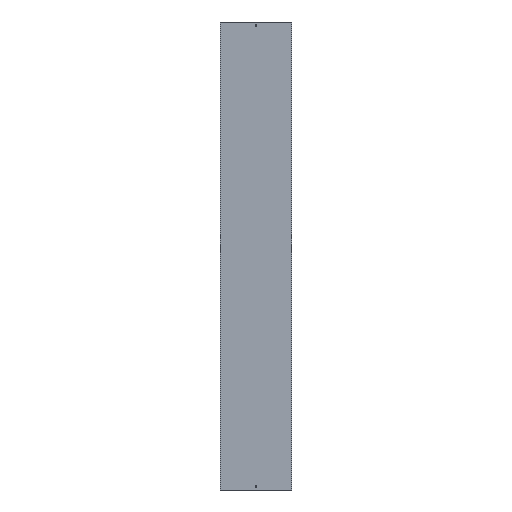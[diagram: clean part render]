
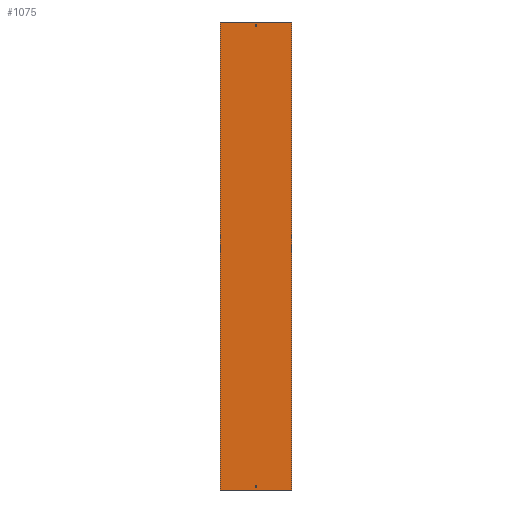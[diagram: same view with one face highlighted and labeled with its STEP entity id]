
A CAD part, front view. The second image highlights one B-rep face of the part: STEP entity #1075.
In plain terms, the highlighted planar face has unit normal (0, -1, 0).
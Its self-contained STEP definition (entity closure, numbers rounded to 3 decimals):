
#5 = LINE ( 'NONE', #1403, #1594 ) ;
#53 = DIRECTION ( 'NONE',  ( 1., 0., 0. ) ) ;
#55 = CARTESIAN_POINT ( 'NONE',  ( 152., 0., 1000. ) ) ;
#56 = VERTEX_POINT ( 'NONE', #467 ) ;
#57 = EDGE_CURVE ( 'NONE', #1556, #698, #705, .T. ) ;
#71 = VERTEX_POINT ( 'NONE', #732 ) ;
#85 = VERTEX_POINT ( 'NONE', #1186 ) ;
#105 = VECTOR ( 'NONE', #248, 1000. ) ;
#131 = DIRECTION ( 'NONE',  ( 1., 0., 0. ) ) ;
#157 = VERTEX_POINT ( 'NONE', #396 ) ;
#217 = VECTOR ( 'NONE', #564, 1000. ) ;
#230 = EDGE_LOOP ( 'NONE', ( #1511, #1334, #759, #285 ) ) ;
#248 = DIRECTION ( 'NONE',  ( 0., 0., -1. ) ) ;
#265 = LINE ( 'NONE', #791, #708 ) ;
#285 = ORIENTED_EDGE ( 'NONE', *, *, #389, .F. ) ;
#331 = EDGE_CURVE ( 'NONE', #1083, #637, #626, .T. ) ;
#343 = FACE_BOUND ( 'NONE', #1678, .T. ) ;
#349 = DIRECTION ( 'NONE',  ( 1., 0., 0. ) ) ;
#359 = VERTEX_POINT ( 'NONE', #1131 ) ;
#362 = LINE ( 'NONE', #1125, #1060 ) ;
#389 = EDGE_CURVE ( 'NONE', #920, #1422, #618, .T. ) ;
#394 = ORIENTED_EDGE ( 'NONE', *, *, #1371, .T. ) ;
#396 = CARTESIAN_POINT ( 'NONE',  ( -3.25, 0., 988. ) ) ;
#400 = VECTOR ( 'NONE', #632, 1000. ) ;
#414 = CARTESIAN_POINT ( 'NONE',  ( 3.25, 0., -988. ) ) ;
#426 = DIRECTION ( 'NONE',  ( 1., 0., 0. ) ) ;
#429 = VECTOR ( 'NONE', #590, 1000. ) ;
#460 = VECTOR ( 'NONE', #941, 1000. ) ;
#467 = CARTESIAN_POINT ( 'NONE',  ( -152., 0., -1000. ) ) ;
#500 = EDGE_CURVE ( 'NONE', #1291, #920, #5, .T. ) ;
#527 = EDGE_CURVE ( 'NONE', #1556, #56, #1282, .T. ) ;
#558 = CARTESIAN_POINT ( 'NONE',  ( 3.25, 0., 979. ) ) ;
#564 = DIRECTION ( 'NONE',  ( 0., 0., -1. ) ) ;
#590 = DIRECTION ( 'NONE',  ( 0., 0., 1. ) ) ;
#612 = CARTESIAN_POINT ( 'NONE',  ( -152., 0., 1000. ) ) ;
#618 = LINE ( 'NONE', #739, #429 ) ;
#626 = LINE ( 'NONE', #1390, #923 ) ;
#632 = DIRECTION ( 'NONE',  ( 0., 0., -1. ) ) ;
#637 = VERTEX_POINT ( 'NONE', #932 ) ;
#648 = CARTESIAN_POINT ( 'NONE',  ( -3.25, 0., -979. ) ) ;
#660 = DIRECTION ( 'NONE',  ( -1., 0., 0. ) ) ;
#675 = EDGE_CURVE ( 'NONE', #637, #71, #1577, .T. ) ;
#681 = ORIENTED_EDGE ( 'NONE', *, *, #1307, .F. ) ;
#698 = VERTEX_POINT ( 'NONE', #55 ) ;
#702 = LINE ( 'NONE', #972, #217 ) ;
#705 = LINE ( 'NONE', #1117, #758 ) ;
#708 = VECTOR ( 'NONE', #660, 1000. ) ;
#732 = CARTESIAN_POINT ( 'NONE',  ( 3.25, 0., -988. ) ) ;
#739 = CARTESIAN_POINT ( 'NONE',  ( 3.25, 0., 988. ) ) ;
#755 = CARTESIAN_POINT ( 'NONE',  ( -152., 0., 1000. ) ) ;
#758 = VECTOR ( 'NONE', #53, 1000. ) ;
#759 = ORIENTED_EDGE ( 'NONE', *, *, #1665, .F. ) ;
#791 = CARTESIAN_POINT ( 'NONE',  ( -3.25, 0., 988. ) ) ;
#795 = CARTESIAN_POINT ( 'NONE',  ( -152., 0., 1000. ) ) ;
#826 = ORIENTED_EDGE ( 'NONE', *, *, #57, .F. ) ;
#850 = CARTESIAN_POINT ( 'NONE',  ( 3.25, 0., 988. ) ) ;
#866 = DIRECTION ( 'NONE',  ( -1., 0., 0. ) ) ;
#867 = PLANE ( 'NONE',  #1355 ) ;
#920 = VERTEX_POINT ( 'NONE', #558 ) ;
#923 = VECTOR ( 'NONE', #349, 1000. ) ;
#932 = CARTESIAN_POINT ( 'NONE',  ( 3.25, 0., -979. ) ) ;
#935 = CARTESIAN_POINT ( 'NONE',  ( -3.25, 0., 979. ) ) ;
#941 = DIRECTION ( 'NONE',  ( 0., 0., -1. ) ) ;
#961 = EDGE_CURVE ( 'NONE', #359, #1083, #362, .T. ) ;
#972 = CARTESIAN_POINT ( 'NONE',  ( 152., 0., 1000. ) ) ;
#992 = DIRECTION ( 'NONE',  ( 0., 0., 1. ) ) ;
#1002 = ORIENTED_EDGE ( 'NONE', *, *, #675, .T. ) ;
#1060 = VECTOR ( 'NONE', #992, 1000. ) ;
#1070 = ORIENTED_EDGE ( 'NONE', *, *, #1264, .T. ) ;
#1075 = ADVANCED_FACE ( 'NONE', ( #1509, #1251, #343 ), #867, .F. ) ;
#1083 = VERTEX_POINT ( 'NONE', #648 ) ;
#1117 = CARTESIAN_POINT ( 'NONE',  ( -152., 0., 1000. ) ) ;
#1125 = CARTESIAN_POINT ( 'NONE',  ( -3.25, 0., -988. ) ) ;
#1131 = CARTESIAN_POINT ( 'NONE',  ( -3.25, 0., -988. ) ) ;
#1177 = CARTESIAN_POINT ( 'NONE',  ( -3.25, 0., 988. ) ) ;
#1186 = CARTESIAN_POINT ( 'NONE',  ( 152., 0., -1000. ) ) ;
#1198 = CARTESIAN_POINT ( 'NONE',  ( -152., 0., -1000. ) ) ;
#1223 = LINE ( 'NONE', #1198, #1386 ) ;
#1227 = ORIENTED_EDGE ( 'NONE', *, *, #331, .T. ) ;
#1231 = ORIENTED_EDGE ( 'NONE', *, *, #961, .T. ) ;
#1251 = FACE_BOUND ( 'NONE', #230, .T. ) ;
#1259 = LINE ( 'NONE', #1356, #1435 ) ;
#1264 = EDGE_CURVE ( 'NONE', #56, #85, #1223, .T. ) ;
#1271 = EDGE_LOOP ( 'NONE', ( #1070, #681, #826, #1278 ) ) ;
#1278 = ORIENTED_EDGE ( 'NONE', *, *, #527, .T. ) ;
#1282 = LINE ( 'NONE', #795, #400 ) ;
#1291 = VERTEX_POINT ( 'NONE', #935 ) ;
#1307 = EDGE_CURVE ( 'NONE', #698, #85, #702, .T. ) ;
#1314 = DIRECTION ( 'NONE',  ( -1., 0., 0. ) ) ;
#1334 = ORIENTED_EDGE ( 'NONE', *, *, #1550, .F. ) ;
#1355 = AXIS2_PLACEMENT_3D ( 'NONE', #612, #1555, #1314 ) ;
#1356 = CARTESIAN_POINT ( 'NONE',  ( -3.25, 0., -988. ) ) ;
#1371 = EDGE_CURVE ( 'NONE', #71, #359, #1259, .T. ) ;
#1386 = VECTOR ( 'NONE', #426, 1000. ) ;
#1390 = CARTESIAN_POINT ( 'NONE',  ( -3.25, 0., -979. ) ) ;
#1397 = LINE ( 'NONE', #1177, #105 ) ;
#1403 = CARTESIAN_POINT ( 'NONE',  ( -3.25, 0., 979. ) ) ;
#1422 = VERTEX_POINT ( 'NONE', #850 ) ;
#1435 = VECTOR ( 'NONE', #866, 1000. ) ;
#1509 = FACE_OUTER_BOUND ( 'NONE', #1271, .T. ) ;
#1511 = ORIENTED_EDGE ( 'NONE', *, *, #500, .F. ) ;
#1550 = EDGE_CURVE ( 'NONE', #157, #1291, #1397, .T. ) ;
#1555 = DIRECTION ( 'NONE',  ( 0., 1., 0. ) ) ;
#1556 = VERTEX_POINT ( 'NONE', #755 ) ;
#1577 = LINE ( 'NONE', #414, #460 ) ;
#1594 = VECTOR ( 'NONE', #131, 1000. ) ;
#1665 = EDGE_CURVE ( 'NONE', #1422, #157, #265, .T. ) ;
#1678 = EDGE_LOOP ( 'NONE', ( #1231, #1227, #1002, #394 ) ) ;
